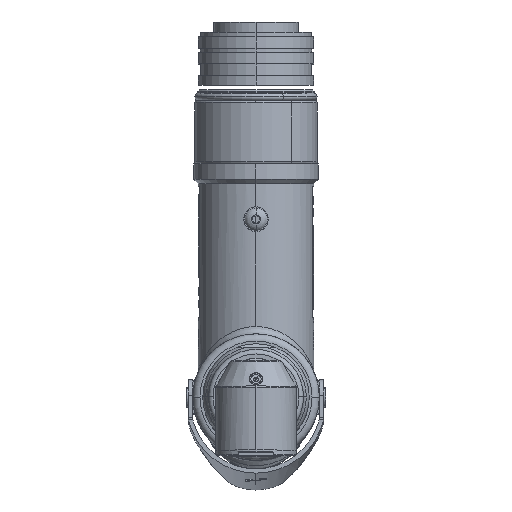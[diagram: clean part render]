
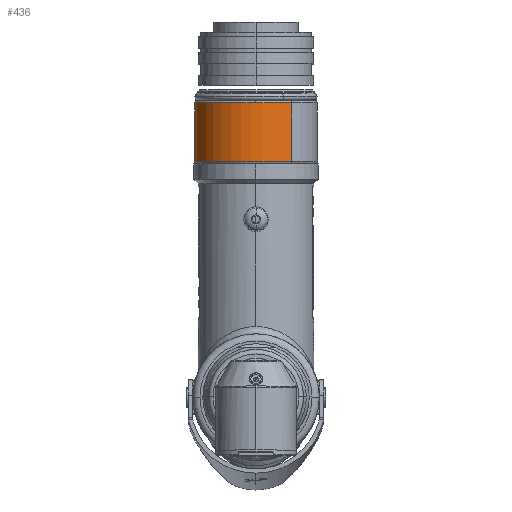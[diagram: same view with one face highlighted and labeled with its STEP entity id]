
A CAD part, top view. The second image highlights one B-rep face of the part: STEP entity #436.
In plain terms, the highlighted cylindrical face has radius 21.526 mm (diameter 43.053 mm), a partial arc.
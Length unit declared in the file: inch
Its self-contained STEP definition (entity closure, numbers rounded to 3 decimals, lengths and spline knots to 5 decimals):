
#436 = ADVANCED_FACE ( 'NONE', ( #22942 ), #22943, .T. ) ;
#8126 = EDGE_CURVE ( 'NONE', #13010, #12981, #36517, .T. ) ;
#8129 = EDGE_CURVE ( 'NONE', #13090, #12980, #36514, .T. ) ;
#8130 = EDGE_CURVE ( 'NONE', #12980, #12981, #36519, .T. ) ;
#8131 = EDGE_CURVE ( 'NONE', #13090, #13010, #36521, .T. ) ;
#12144 = ORIENTED_EDGE ( 'NONE', *, *, #8129, .T. ) ;
#12145 = ORIENTED_EDGE ( 'NONE', *, *, #8130, .T. ) ;
#12146 = ORIENTED_EDGE ( 'NONE', *, *, #8126, .F. ) ;
#12147 = ORIENTED_EDGE ( 'NONE', *, *, #8131, .F. ) ;
#12980 = VERTEX_POINT ( 'NONE', #43907 ) ;
#12981 = VERTEX_POINT ( 'NONE', #43908 ) ;
#13010 = VERTEX_POINT ( 'NONE', #43937 ) ;
#13090 = VERTEX_POINT ( 'NONE', #44017 ) ;
#15162 = EDGE_LOOP ( 'NONE', ( #12144, #12145, #12146, #12147 ) ) ;
#20791 = DIRECTION ( 'NONE',  ( 0.581, 0., 0.814 ) ) ;
#20792 = DIRECTION ( 'NONE',  ( 0., -1., 0. ) ) ;
#20804 = CARTESIAN_POINT ( 'NONE',  ( 0., 2.15253, -0.451 ) ) ;
#21351 = AXIS2_PLACEMENT_3D ( 'NONE', #20804, #20792, #20791 ) ;
#22403 = AXIS2_PLACEMENT_3D ( 'NONE', #36294, #36295, #36296 ) ;
#22406 = AXIS2_PLACEMENT_3D ( 'NONE', #36304, #36305, #36306 ) ;
#22942 = FACE_OUTER_BOUND ( 'NONE', #15162, .T. ) ;
#22943 = CYLINDRICAL_SURFACE ( 'NONE', #21351, 0.8475 ) ;
#36293 = DIRECTION ( 'NONE',  ( 0., -1., 0. ) ) ;
#36294 = CARTESIAN_POINT ( 'NONE',  ( 0., 3.255, -0.451 ) ) ;
#36295 = DIRECTION ( 'NONE',  ( 0., -1., 0. ) ) ;
#36296 = DIRECTION ( 'NONE',  ( 0.581, 0., 0.814 ) ) ;
#36303 = CARTESIAN_POINT ( 'NONE',  ( -0.49255, 2.15253, -1.14068 ) ) ;
#36304 = CARTESIAN_POINT ( 'NONE',  ( 0., 4.07, -0.451 ) ) ;
#36305 = DIRECTION ( 'NONE',  ( 0., -1., 0. ) ) ;
#36306 = DIRECTION ( 'NONE',  ( 0.581, 0., 0.814 ) ) ;
#36307 = CARTESIAN_POINT ( 'NONE',  ( 0.49255, 2.15253, 0.23868 ) ) ;
#36308 = DIRECTION ( 'NONE',  ( 0., -1., 0. ) ) ;
#36514 = CIRCLE ( 'NONE', #22406, 0.8475 ) ;
#36517 = CIRCLE ( 'NONE', #22403, 0.8475 ) ;
#36519 = LINE ( 'NONE', #36303, #36522 ) ;
#36521 = LINE ( 'NONE', #36307, #36524 ) ;
#36522 = VECTOR ( 'NONE', #36293, 39.37008 ) ;
#36524 = VECTOR ( 'NONE', #36308, 39.37008 ) ;
#43907 = CARTESIAN_POINT ( 'NONE',  ( -0.49255, 4.07, -1.14068 ) ) ;
#43908 = CARTESIAN_POINT ( 'NONE',  ( -0.49255, 3.255, -1.14068 ) ) ;
#43937 = CARTESIAN_POINT ( 'NONE',  ( 0.49255, 3.255, 0.23868 ) ) ;
#44017 = CARTESIAN_POINT ( 'NONE',  ( 0.49255, 4.07, 0.23868 ) ) ;
